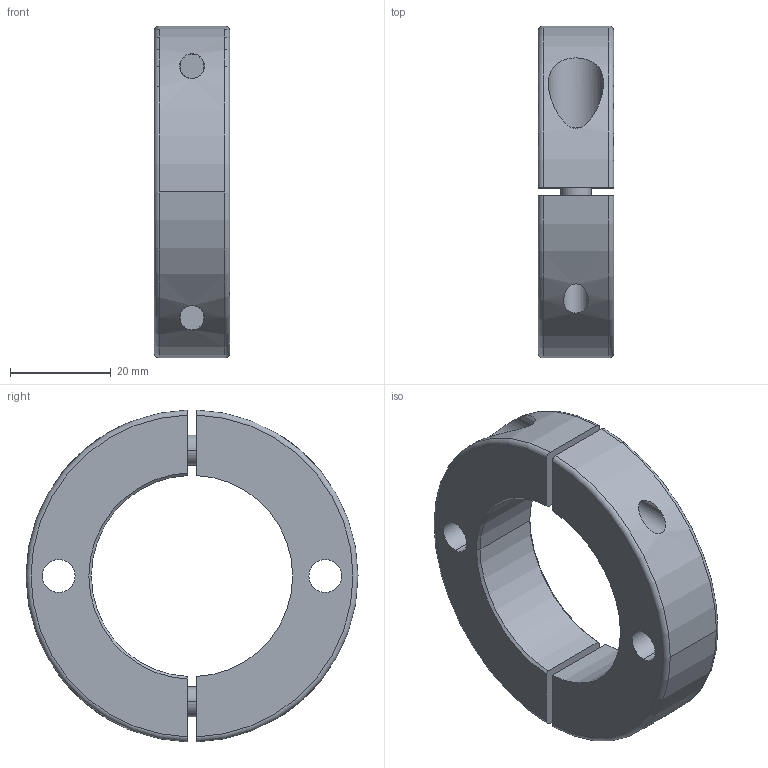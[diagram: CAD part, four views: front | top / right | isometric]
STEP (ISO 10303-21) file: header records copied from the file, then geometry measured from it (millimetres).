
FILE_DESCRIPTION( ( '' ), '1' );
FILE_NAME( 'C:/Users/Stangenbergd/Documents/CAD_Step/1/62399440B1.stp', '2019-02-21T14:52:17', ( '' ), ( '' ), ' ', ' ', ' ' );
FILE_SCHEMA( ( 'CONFIG_CONTROL_DESIGN' ) );
Length unit declared in the file: millimetre
Products named in the file (4): 1; 2; 3; 4
Bounding box: 15 x 66 x 65.98 mm (x, y, z)
Volume: 28635.3 mm3; surface area: 13133.5 mm2
Topology: 4 solids, 4 shells, 82 faces, 194 edges, 126 vertices
Faces by surface type: cylinder 32, plane 30, cone 16, torus 4
Entity records: 2926 total; most frequent: CARTESIAN_POINT 810, DIRECTION 418, ORIENTED_EDGE 388, EDGE_CURVE 194, AXIS2_PLACEMENT_3D 162, VERTEX_POINT 126, EDGE_LOOP 100, LINE 94
